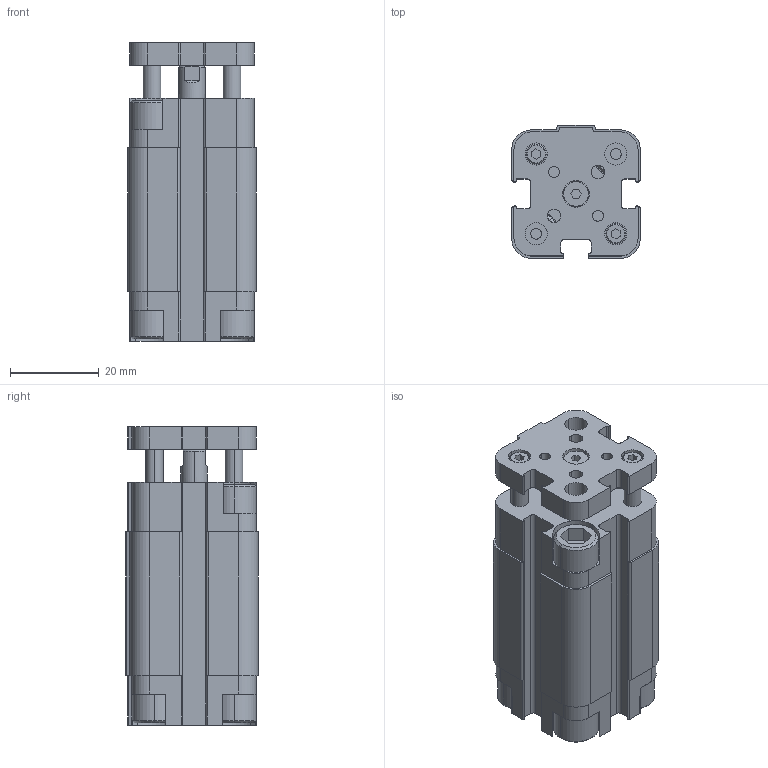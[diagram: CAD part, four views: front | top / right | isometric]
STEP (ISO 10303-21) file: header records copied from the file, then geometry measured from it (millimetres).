
FILE_DESCRIPTION (( 'STEP AP203' ), '1' );
FILE_NAME ('QFA0120020A.step', '2012-10-18T17:08:43', ( '' ), ( '' ), 'SwSTEP 2.0', 'SolidWorks 2012', '' );
FILE_SCHEMA (( 'CONFIG_CONTROL_DESIGN' ));
Length unit declared in the file: millimetre
Products named in the file (1): QFA0120020A
Bounding box: 29 x 30 x 67.3 mm (x, y, z)
Volume: 41319 mm3; surface area: 14769.3 mm2
Topology: 1 solids, 1 shells, 408 faces, 1085 edges, 703 vertices
Faces by surface type: plane 214, cylinder 156, cone 38
Entity records: 12835 total; most frequent: CARTESIAN_POINT 2290, DIRECTION 2246, ORIENTED_EDGE 2162, EDGE_CURVE 1081, AXIS2_PLACEMENT_3D 773, VERTEX_POINT 703, VECTOR 700, LINE 700
